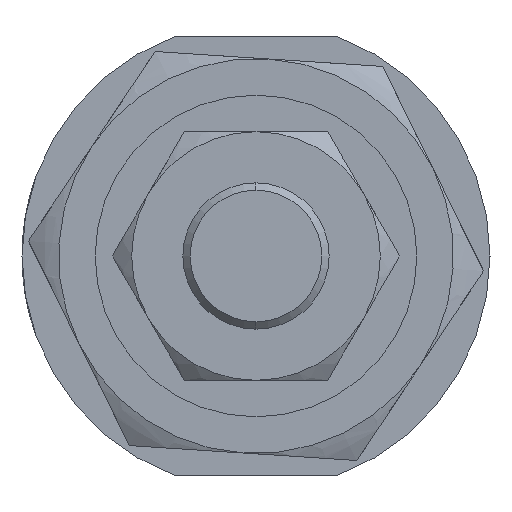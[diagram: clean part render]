
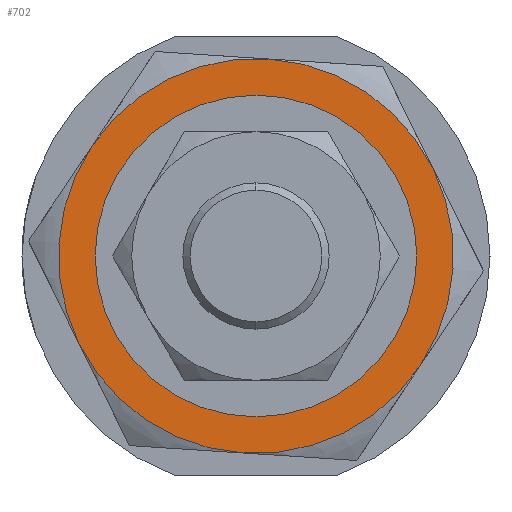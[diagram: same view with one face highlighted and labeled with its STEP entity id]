
A CAD part, left-side view. The second image highlights one B-rep face of the part: STEP entity #702.
In plain terms, the highlighted planar face has unit normal (-1, 0, 0) as drawn and (0, 0, -1) by its records, which use the part's own axes.
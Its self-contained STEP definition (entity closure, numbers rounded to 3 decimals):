
#16 = VERTEX_POINT ( 'NONE', #1982 ) ;
#25 = CARTESIAN_POINT ( 'NONE',  ( -10., 0., -5. ) ) ;
#31 = CIRCLE ( 'NONE', #2931, 13.5 ) ;
#114 = DIRECTION ( 'NONE',  ( 0., 0., 1. ) ) ;
#152 = EDGE_CURVE ( 'NONE', #2226, #873, #2223, .T. ) ;
#415 = DIRECTION ( 'NONE',  ( 0., 0., 1. ) ) ;
#430 = DIRECTION ( 'NONE',  ( 1., 0., 0. ) ) ;
#437 = ORIENTED_EDGE ( 'NONE', *, *, #1650, .T. ) ;
#448 = VERTEX_POINT ( 'NONE', #2188 ) ;
#465 = DIRECTION ( 'NONE',  ( 1., 0., 0. ) ) ;
#507 = EDGE_CURVE ( 'NONE', #2465, #2928, #2080, .T. ) ;
#583 = DIRECTION ( 'NONE',  ( 0., 0., 1. ) ) ;
#663 = FACE_BOUND ( 'NONE', #3113, .T. ) ;
#692 = AXIS2_PLACEMENT_3D ( 'NONE', #2952, #1701, #2448 ) ;
#702 = ADVANCED_FACE ( 'NONE', ( #663, #934 ), #2234, .F. ) ;
#745 = CARTESIAN_POINT ( 'NONE',  ( -6.75, -11.691, -5. ) ) ;
#871 = DIRECTION ( 'NONE',  ( 0., 0., 1. ) ) ;
#873 = VERTEX_POINT ( 'NONE', #25 ) ;
#902 = CARTESIAN_POINT ( 'NONE',  ( 0., 0., -5. ) ) ;
#929 = AXIS2_PLACEMENT_3D ( 'NONE', #1163, #415, #430 ) ;
#934 = FACE_OUTER_BOUND ( 'NONE', #1303, .T. ) ;
#955 = ORIENTED_EDGE ( 'NONE', *, *, #2084, .F. ) ;
#1010 = CARTESIAN_POINT ( 'NONE',  ( 10., 0., -5. ) ) ;
#1078 = CARTESIAN_POINT ( 'NONE',  ( -13.5, 0., -5. ) ) ;
#1082 = CIRCLE ( 'NONE', #2966, 10. ) ;
#1116 = DIRECTION ( 'NONE',  ( 1., 0., 0. ) ) ;
#1163 = CARTESIAN_POINT ( 'NONE',  ( 0., 0., -5. ) ) ;
#1239 = ORIENTED_EDGE ( 'NONE', *, *, #507, .F. ) ;
#1240 = DIRECTION ( 'NONE',  ( 1., 0., 0. ) ) ;
#1301 = AXIS2_PLACEMENT_3D ( 'NONE', #3016, #583, #2294 ) ;
#1303 = EDGE_LOOP ( 'NONE', ( #2512, #3078, #2369, #1239, #2368, #955 ) ) ;
#1309 = DIRECTION ( 'NONE',  ( 0., 0., 1. ) ) ;
#1327 = ORIENTED_EDGE ( 'NONE', *, *, #152, .T. ) ;
#1467 = AXIS2_PLACEMENT_3D ( 'NONE', #3158, #2434, #465 ) ;
#1511 = CARTESIAN_POINT ( 'NONE',  ( 13.5, 0., -5. ) ) ;
#1650 = EDGE_CURVE ( 'NONE', #873, #2226, #1082, .T. ) ;
#1701 = DIRECTION ( 'NONE',  ( 0., 0., 1. ) ) ;
#1719 = CIRCLE ( 'NONE', #1467, 13.5 ) ;
#1774 = EDGE_CURVE ( 'NONE', #448, #3115, #2758, .T. ) ;
#1803 = EDGE_CURVE ( 'NONE', #3115, #16, #31, .T. ) ;
#1847 = EDGE_CURVE ( 'NONE', #2928, #448, #2385, .T. ) ;
#1982 = CARTESIAN_POINT ( 'NONE',  ( 6.75, 11.691, -5. ) ) ;
#2080 = CIRCLE ( 'NONE', #692, 13.5 ) ;
#2084 = EDGE_CURVE ( 'NONE', #16, #2194, #1719, .T. ) ;
#2113 = AXIS2_PLACEMENT_3D ( 'NONE', #2843, #871, #3074 ) ;
#2178 = CARTESIAN_POINT ( 'NONE',  ( 0., 0., -5. ) ) ;
#2184 = EDGE_CURVE ( 'NONE', #2194, #2465, #2383, .T. ) ;
#2188 = CARTESIAN_POINT ( 'NONE',  ( 6.75, -11.691, -5. ) ) ;
#2194 = VERTEX_POINT ( 'NONE', #2669 ) ;
#2223 = CIRCLE ( 'NONE', #1301, 10. ) ;
#2226 = VERTEX_POINT ( 'NONE', #1010 ) ;
#2234 = PLANE ( 'NONE',  #2484 ) ;
#2294 = DIRECTION ( 'NONE',  ( 1., 0., 0. ) ) ;
#2298 = AXIS2_PLACEMENT_3D ( 'NONE', #2178, #2424, #1240 ) ;
#2368 = ORIENTED_EDGE ( 'NONE', *, *, #2184, .F. ) ;
#2369 = ORIENTED_EDGE ( 'NONE', *, *, #1847, .F. ) ;
#2383 = CIRCLE ( 'NONE', #2298, 13.5 ) ;
#2385 = CIRCLE ( 'NONE', #929, 13.5 ) ;
#2424 = DIRECTION ( 'NONE',  ( 0., 0., 1. ) ) ;
#2434 = DIRECTION ( 'NONE',  ( 0., 0., 1. ) ) ;
#2448 = DIRECTION ( 'NONE',  ( 1., 0., 0. ) ) ;
#2465 = VERTEX_POINT ( 'NONE', #1078 ) ;
#2484 = AXIS2_PLACEMENT_3D ( 'NONE', #2557, #2542, #1116 ) ;
#2512 = ORIENTED_EDGE ( 'NONE', *, *, #1803, .F. ) ;
#2542 = DIRECTION ( 'NONE',  ( 0., 0., 1. ) ) ;
#2554 = CARTESIAN_POINT ( 'NONE',  ( 0., 0., -5. ) ) ;
#2557 = CARTESIAN_POINT ( 'NONE',  ( 0., 0., -5. ) ) ;
#2609 = DIRECTION ( 'NONE',  ( 1., 0., 0. ) ) ;
#2669 = CARTESIAN_POINT ( 'NONE',  ( -6.75, 11.691, -5. ) ) ;
#2758 = CIRCLE ( 'NONE', #2113, 13.5 ) ;
#2843 = CARTESIAN_POINT ( 'NONE',  ( 0., 0., -5. ) ) ;
#2928 = VERTEX_POINT ( 'NONE', #745 ) ;
#2931 = AXIS2_PLACEMENT_3D ( 'NONE', #902, #114, #2609 ) ;
#2952 = CARTESIAN_POINT ( 'NONE',  ( 0., 0., -5. ) ) ;
#2966 = AXIS2_PLACEMENT_3D ( 'NONE', #2554, #1309, #3018 ) ;
#3016 = CARTESIAN_POINT ( 'NONE',  ( 0., 0., -5. ) ) ;
#3018 = DIRECTION ( 'NONE',  ( 1., 0., 0. ) ) ;
#3074 = DIRECTION ( 'NONE',  ( 1., 0., 0. ) ) ;
#3078 = ORIENTED_EDGE ( 'NONE', *, *, #1774, .F. ) ;
#3113 = EDGE_LOOP ( 'NONE', ( #1327, #437 ) ) ;
#3115 = VERTEX_POINT ( 'NONE', #1511 ) ;
#3158 = CARTESIAN_POINT ( 'NONE',  ( 0., 0., -5. ) ) ;
